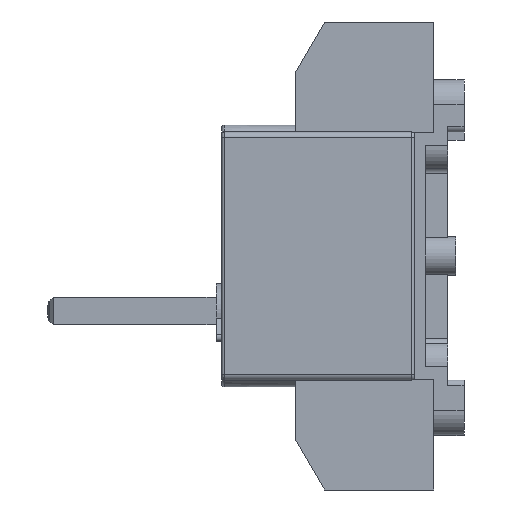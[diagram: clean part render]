
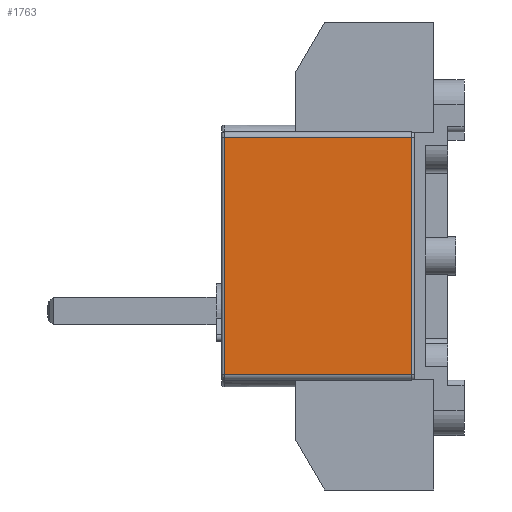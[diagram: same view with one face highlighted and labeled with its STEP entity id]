
A CAD part, left-side view. The second image highlights one B-rep face of the part: STEP entity #1763.
In plain terms, the highlighted planar face has unit normal (-1, 0, 0).
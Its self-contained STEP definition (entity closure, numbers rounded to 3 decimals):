
#281=FACE_OUTER_BOUND('',#2470,.T.);
#641=LINE('',#9012,#1170);
#794=LINE('',#9749,#1323);
#801=LINE('',#9801,#1330);
#802=LINE('',#9803,#1331);
#1170=VECTOR('',#7286,1.);
#1323=VECTOR('',#7923,1.);
#1330=VECTOR('',#7948,1.);
#1331=VECTOR('',#7951,1.);
#1763=ADVANCED_FACE('',(#281),#1942,.F.);
#1942=PLANE('',#6321);
#2470=EDGE_LOOP('',(#3917,#3918,#3919,#3920));
#3917=ORIENTED_EDGE('',*,*,#5477,.F.);
#3918=ORIENTED_EDGE('',*,*,#5463,.T.);
#3919=ORIENTED_EDGE('',*,*,#5478,.T.);
#3920=ORIENTED_EDGE('',*,*,#5166,.T.);
#4478=VERTEX_POINT('',#9005);
#4480=VERTEX_POINT('',#9011);
#4674=VERTEX_POINT('',#9716);
#4678=VERTEX_POINT('',#9748);
#5166=EDGE_CURVE('',#4478,#4480,#641,.T.);
#5463=EDGE_CURVE('',#4674,#4678,#794,.T.);
#5477=EDGE_CURVE('',#4674,#4480,#801,.T.);
#5478=EDGE_CURVE('',#4678,#4478,#802,.T.);
#6321=AXIS2_PLACEMENT_3D('',#9804,#7952,#7953);
#7286=DIRECTION('',(0.,0.,1.));
#7923=DIRECTION('',(0.,0.,-1.));
#7948=DIRECTION('',(0.,-1.,0.));
#7951=DIRECTION('',(0.,-1.,0.));
#7952=DIRECTION('',(1.,0.,0.));
#7953=DIRECTION('',(0.,0.,-1.));
#9005=CARTESIAN_POINT('',(-41.,1.,-43.));
#9011=CARTESIAN_POINT('',(-41.,1.,43.));
#9012=CARTESIAN_POINT('',(-41.,1.,-43.));
#9716=CARTESIAN_POINT('',(-41.,69.,43.));
#9748=CARTESIAN_POINT('',(-41.,69.,-43.));
#9749=CARTESIAN_POINT('',(-41.,69.,-43.));
#9801=CARTESIAN_POINT('',(-41.,35.,43.));
#9803=CARTESIAN_POINT('',(-41.,35.,-43.));
#9804=CARTESIAN_POINT('',(-41.,35.,-43.));
